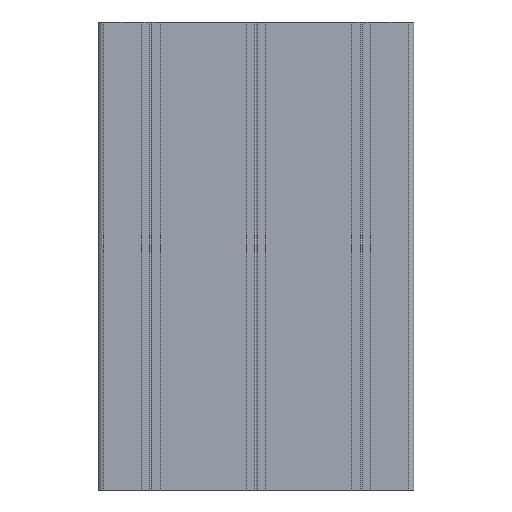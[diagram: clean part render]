
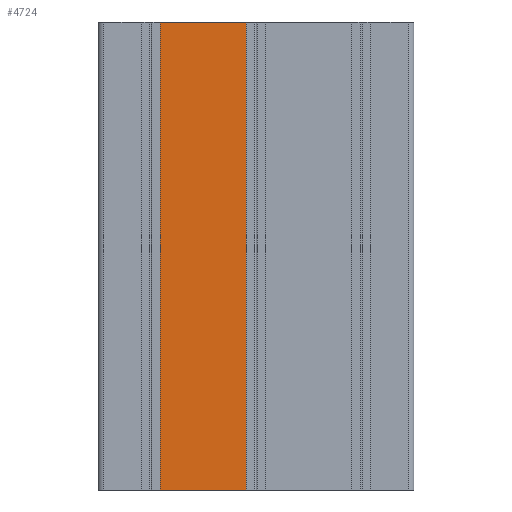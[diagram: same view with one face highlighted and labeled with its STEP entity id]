
A CAD part, left-side view. The second image highlights one B-rep face of the part: STEP entity #4724.
In plain terms, the highlighted planar face has unit normal (-1, 0, 0).
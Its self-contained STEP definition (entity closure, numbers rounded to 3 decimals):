
#22 = EDGE_CURVE ( 'NONE', #2333, #558, #3218, .T. ) ;
#289 = EDGE_CURVE ( 'NONE', #2333, #4435, #1835, .T. ) ;
#297 = EDGE_CURVE ( 'NONE', #558, #2257, #1785, .T. ) ;
#558 = VERTEX_POINT ( 'NONE', #3440 ) ;
#825 = FACE_OUTER_BOUND ( 'NONE', #4865, .T. ) ;
#910 = CARTESIAN_POINT ( 'NONE',  ( -45., 40.9, 0. ) ) ;
#1081 = EDGE_CURVE ( 'NONE', #4435, #2257, #4175, .T. ) ;
#1485 = CARTESIAN_POINT ( 'NONE',  ( -45., 40.9, 200. ) ) ;
#1579 = DIRECTION ( 'NONE',  ( 0., -1., 0. ) ) ;
#1724 = DIRECTION ( 'NONE',  ( 0., 0., -1. ) ) ;
#1782 = VECTOR ( 'NONE', #4139, 1000. ) ;
#1785 = LINE ( 'NONE', #4181, #1902 ) ;
#1817 = DIRECTION ( 'NONE',  ( 1., 0., 0. ) ) ;
#1833 = CARTESIAN_POINT ( 'NONE',  ( -45., 40.9, 200. ) ) ;
#1835 = LINE ( 'NONE', #3699, #1782 ) ;
#1902 = VECTOR ( 'NONE', #4284, 1000. ) ;
#1963 = CARTESIAN_POINT ( 'NONE',  ( -45., 40.9, 200. ) ) ;
#2174 = CARTESIAN_POINT ( 'NONE',  ( -45., 4.1, 0. ) ) ;
#2257 = VERTEX_POINT ( 'NONE', #2174 ) ;
#2333 = VERTEX_POINT ( 'NONE', #1963 ) ;
#2656 = PLANE ( 'NONE',  #2841 ) ;
#2710 = ORIENTED_EDGE ( 'NONE', *, *, #289, .T. ) ;
#2841 = AXIS2_PLACEMENT_3D ( 'NONE', #1833, #1817, #1724 ) ;
#3121 = VECTOR ( 'NONE', #1579, 1000. ) ;
#3218 = LINE ( 'NONE', #1485, #3121 ) ;
#3440 = CARTESIAN_POINT ( 'NONE',  ( -45., 4.1, 200. ) ) ;
#3699 = CARTESIAN_POINT ( 'NONE',  ( -45., 40.9, 200. ) ) ;
#4060 = VECTOR ( 'NONE', #4336, 1000. ) ;
#4100 = ORIENTED_EDGE ( 'NONE', *, *, #1081, .T. ) ;
#4139 = DIRECTION ( 'NONE',  ( 0., 0., -1. ) ) ;
#4175 = LINE ( 'NONE', #4393, #4060 ) ;
#4181 = CARTESIAN_POINT ( 'NONE',  ( -45., 4.1, 200. ) ) ;
#4284 = DIRECTION ( 'NONE',  ( 0., 0., -1. ) ) ;
#4336 = DIRECTION ( 'NONE',  ( 0., -1., 0. ) ) ;
#4393 = CARTESIAN_POINT ( 'NONE',  ( -45., 40.9, 0. ) ) ;
#4435 = VERTEX_POINT ( 'NONE', #910 ) ;
#4712 = ORIENTED_EDGE ( 'NONE', *, *, #22, .F. ) ;
#4724 = ADVANCED_FACE ( 'NONE', ( #825 ), #2656, .F. ) ;
#4865 = EDGE_LOOP ( 'NONE', ( #4100, #4933, #4712, #2710 ) ) ;
#4933 = ORIENTED_EDGE ( 'NONE', *, *, #297, .F. ) ;
